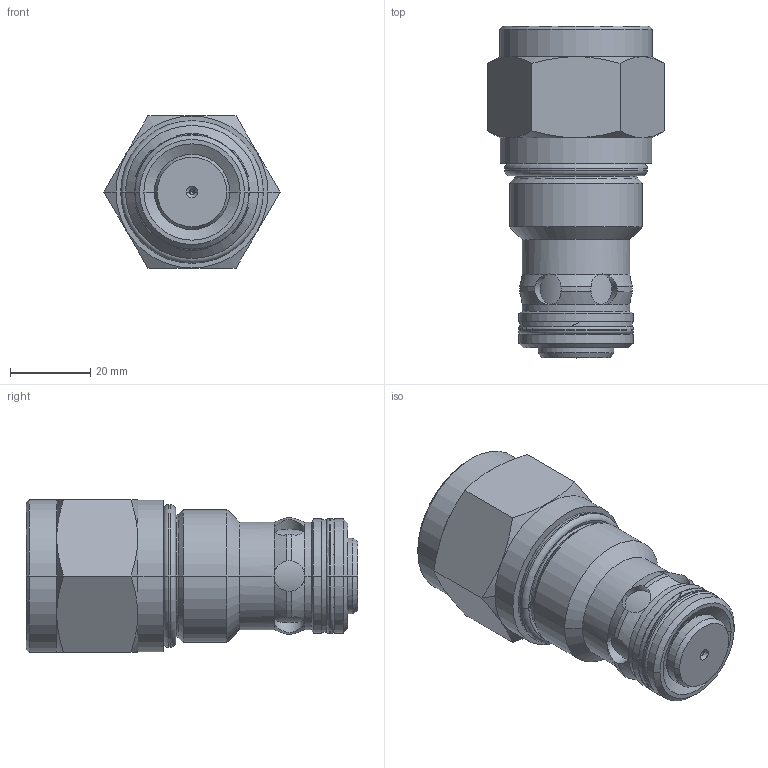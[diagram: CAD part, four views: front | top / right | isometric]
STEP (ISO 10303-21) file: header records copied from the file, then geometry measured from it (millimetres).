
FILE_DESCRIPTION((''),'2;1');
FILE_NAME('CVRP-16-_-_-OUT','2015-09-04T',('torrese'),(''),'PRO/ENGINEER BY PARAMETRIC TECHNOLOGY CORPORATION, 2015070','PRO/ENGINEER BY PARAMETRIC TECHNOLOGY CORPORATION, 2015070','');
FILE_SCHEMA(('CONFIG_CONTROL_DESIGN','GEOMETRIC_VALIDATION_PROPERTIES_MIM'));
Length unit declared in the file: inch
Products named in the file (1): CVRP-16-_-_-OUT
Bounding box: 43.99 x 82.91 x 38.1 mm (x, y, z)
Volume: 73665.3 mm3; surface area: 12157.2 mm2
Topology: 1 solids, 1 shells, 121 faces, 286 edges, 173 vertices
Faces by surface type: cylinder 55, cone 36, plane 18, torus 12
Entity records: 7653 total; most frequent: CARTESIAN_POINT 3346, ORIENTED_EDGE 568, DIRECTION 555, PRESENTATION_STYLE_ASSIGNMENT 370, STYLED_ITEM 302, CURVE_STYLE 284, EDGE_CURVE 284, AXIS2_PLACEMENT_3D 240
